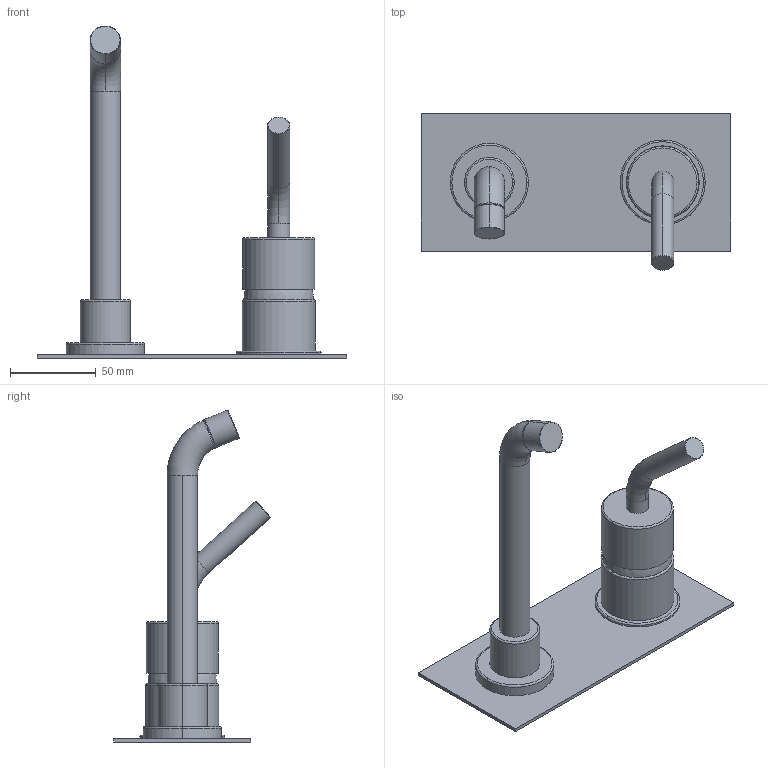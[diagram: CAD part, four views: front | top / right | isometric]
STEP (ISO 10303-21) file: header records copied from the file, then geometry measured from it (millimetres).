
FILE_DESCRIPTION (( 'STEP AP203' ), '1' );
FILE_NAME ('81CR208PNEW_ñòåï.STEP', '2020-04-11T14:32:29', ( '' ), ( '' ), 'SwSTEP 2.0', 'SolidWorks 2019', '' );
FILE_SCHEMA (( 'CONFIG_CONTROL_DESIGN' ));
Length unit declared in the file: millimetre
Products named in the file (1): 81CR208PNEW_嚦樖
Bounding box: 180 x 91.4 x 193.38 mm (x, y, z)
Volume: 204660.3 mm3; surface area: 54985.4 mm2
Topology: 1 solids, 1 shells, 55 faces, 122 edges, 74 vertices
Faces by surface type: torus 20, cylinder 18, plane 13, bspline 2, sphere 2
Entity records: 2098 total; most frequent: CARTESIAN_POINT 779, DIRECTION 298, ORIENTED_EDGE 236, AXIS2_PLACEMENT_3D 134, EDGE_CURVE 118, CIRCLE 80, VERTEX_POINT 72, EDGE_LOOP 62
